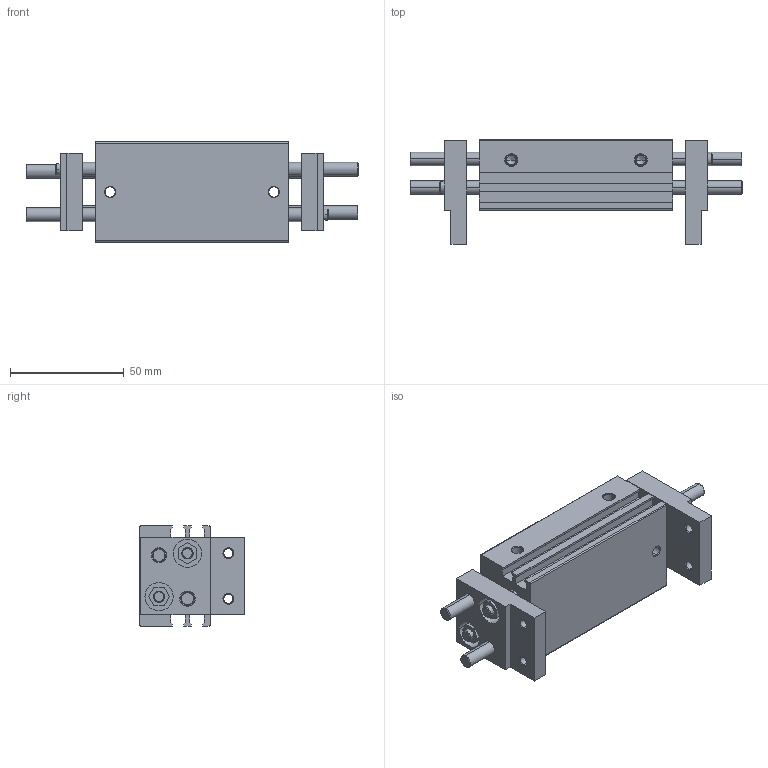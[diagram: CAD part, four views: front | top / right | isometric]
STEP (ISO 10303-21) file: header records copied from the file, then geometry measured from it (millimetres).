
FILE_DESCRIPTION (( 'STEP AP203' ), '1' );
FILE_NAME ('CHL2-10D2.STEP', '2017-06-06T20:28:57', ( '' ), ( '' ), 'SwSTEP 2.0', 'SolidWorks 2016', '' );
FILE_SCHEMA (( 'CONFIG_CONTROL_DESIGN' ));
Length unit declared in the file: millimetre
Products named in the file (3): CHL2-10D2 CORPO; CHL2-10D2 DEDO; CHL2-10D2
Assembly tree (3 placements, depth 2):
  CHL2-10D2
    CHL2-10D2 CORPO
    CHL2-10D2 DEDO  x2
Bounding box: 146 x 46 x 44 mm (x, y, z)
Volume: 126527.5 mm3; surface area: 50386.1 mm2
Topology: 3 solids, 3 shells, 347 faces, 805 edges, 499 vertices
Faces by surface type: cylinder 127, plane 125, cone 95
Entity records: 7779 total; most frequent: DIRECTION 1394, CARTESIAN_POINT 1247, ORIENTED_EDGE 1198, EDGE_CURVE 599, AXIS2_PLACEMENT_3D 526, VERTEX_POINT 379, VECTOR 342, LINE 342
